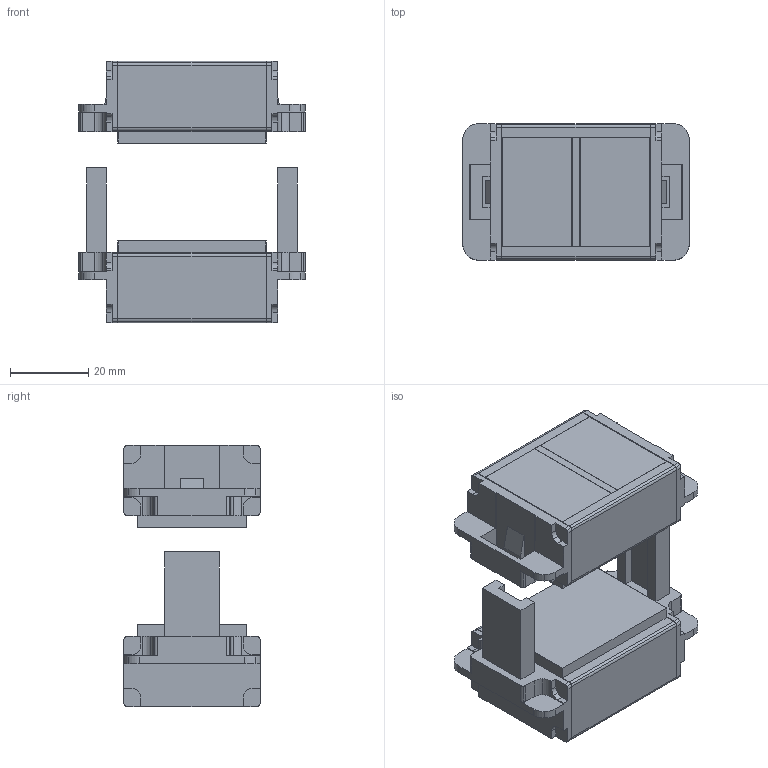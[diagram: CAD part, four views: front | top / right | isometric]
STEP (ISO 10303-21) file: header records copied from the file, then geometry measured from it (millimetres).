
FILE_DESCRIPTION(('CAx-IF Rec.Pracs.---Model Styling and Organization---1.2---2011-12-15','CAx-IF Rec.Pracs.---Geometric and Assembly Validation Properties---4.1---2014-06-16','CAx-IF Rec.Pracs.---PMI Polyline Presentation---2.0---2013-05-24'),'2;1');
FILE_NAME('R5M2WSC52.stp','2021-05-05T11:56:40+03:00',(''),(''),'STEP Interface 4.4 by CT CoreTechnologie','3D_Evolution4.4 by CT CoreTechnologie','');
FILE_SCHEMA(('AUTOMOTIVE_DESIGN { 1 0 10303 214 1 1 1 1 }'));
Length unit declared in the file: millimetre
Products named in the file (7): R5M2WSC52; Staubli 12A Male_-01; 12A 26+26 Male; 12A 26+RJ45 Male_-01; Staubli 12A FeMale_-01; 12A 26+RJ45 FeMale_-01; 12A 26+26 FeMale
Assembly tree (6 placements, depth 3):
  R5M2WSC52
    Staubli 12A Male_-01
      12A 26+26 Male
      12A 26+RJ45 Male_-01
    Staubli 12A FeMale_-01
      12A 26+RJ45 FeMale_-01
      12A 26+26 FeMale
Bounding box: 58 x 35 x 67 mm (x, y, z)
Surface area: 27269.8 mm2 (no closed solid volume)
Topology: 0 solids, 10 shells, 340 faces, 980 edges, 660 vertices
Faces by surface type: plane 212, cylinder 128
Entity records: 11494 total; most frequent: CARTESIAN_POINT 1987, ORIENTED_EDGE 1960, DIRECTION 1930, EDGE_CURVE 980, VECTOR 724, LINE 724, VERTEX_POINT 660, AXIS2_PLACEMENT_3D 603
